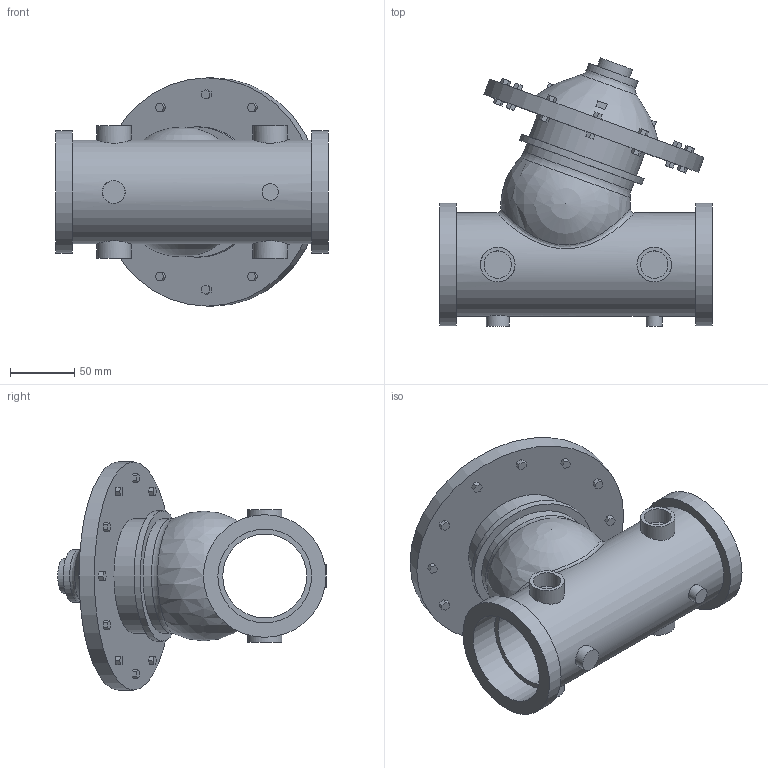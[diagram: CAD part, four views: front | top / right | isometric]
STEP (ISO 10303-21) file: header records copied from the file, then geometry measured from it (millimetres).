
FILE_DESCRIPTION(/* description */ ('VIC FP VALVE PRESSURE RELIEF SERIES 867-7UF (FPT)','CAx-IF Rec.Pracs.---Representation and Presentation of Product Manufacturing Information (PMI)---4.0---2014-10-13'),/* implementation_level */ '2;1');
FILE_NAME(/* name */ 'C:\Series 867-7UF\Series 867-7UF final\Victaulic_FP-Bermad_Valve Pressure Relief_Series 867-7UF (FPT)\Victaulic_FP-Bermad_Valve Pressure Relief_Series 867-7UF (FPT)_2.5 (65).stp',/* time_stamp */ '2021-09-02T13:09:48+06:00',/* author */ ('kkamble'),/* organization */ ('Victaulic'),/* preprocessor_version */ 'ST-DEVELOPER v17.2',/* originating_system */ 'Autodesk Inventor 2019',/* authorisation */ '');
FILE_SCHEMA (('AP242_MANAGED_MODEL_BASED_3D_ENGINEERING_MIM_LF { 1 0 10303 442 1 1 4 }'));
Length unit declared in the file: inch
Products named in the file (1): 867-7UF-02.5
Bounding box: 212.09 x 209.21 x 177.8 mm (x, y, z)
Volume: 1383992.6 mm3; surface area: 196816.8 mm2
Topology: 1 solids, 1 shells, 233 faces, 586 edges, 400 vertices
Faces by surface type: plane 206, cylinder 22, torus 2, bspline 2, sphere 1
Full cylindrical faces by diameter (mm): 12.7 x1, 17.78 x1, 21.336 x4, 26.67 x1, 26.873 x4, 40.64 x1, 65.405 x1, 73.025 x2, 80.645 x1, 88.9 x2, 95.504 x2, 101.6 x1, 177.8 x1
Entity records: 7802 total; most frequent: CARTESIAN_POINT 1799, ORIENTED_EDGE 1168, DIRECTION 1120, EDGE_CURVE 584, LINE 476, VECTOR 476, VERTEX_POINT 400, AXIS2_PLACEMENT_3D 322
